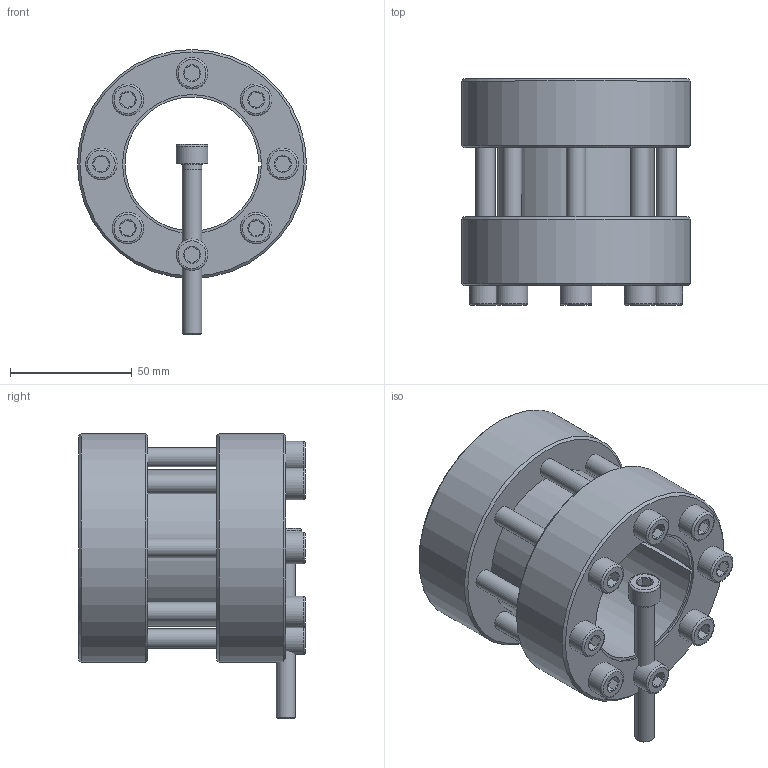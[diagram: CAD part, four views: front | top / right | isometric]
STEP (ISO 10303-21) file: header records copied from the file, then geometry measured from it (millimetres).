
FILE_DESCRIPTION( ( 'Unknown' ), '1' );
FILE_NAME( 'C:/Dokumente und Einstellungen/Sven/Desktop/homepage/cad - homepage/KBS95/KBS 95 - 55 x 94.stp', 'Unknown', ( 'Unknown' ), ( 'Unknown' ), 'XStep 1.0', 'Unknown', ' ' );
FILE_SCHEMA( ( 'automotive_design' ) );
Length unit declared in the file: millimetre
Products named in the file (3): Assem1; KBS 95 - 55 x 94; ISO EN DIN 4762 M8x70
Bounding box: 94 x 93 x 117 mm (x, y, z)
Volume: 559111.9 mm3; surface area: 148407.9 mm2
Topology: 11 solids, 11 shells, 297 faces, 615 edges, 376 vertices
Faces by surface type: plane 128, cylinder 76, cone 75, torus 18
Full cylindrical faces by diameter (mm): 7 x9, 8 x50, 13 x9, 94 x4
Entity records: 1998 total; most frequent: CARTESIAN_POINT 339, DIRECTION 308, ORIENTED_EDGE 222, AXIS2_PLACEMENT_3D 136, EDGE_LOOP 130, EDGE_CURVE 111, VERTEX_POINT 87, FACE_OUTER_BOUND 85
